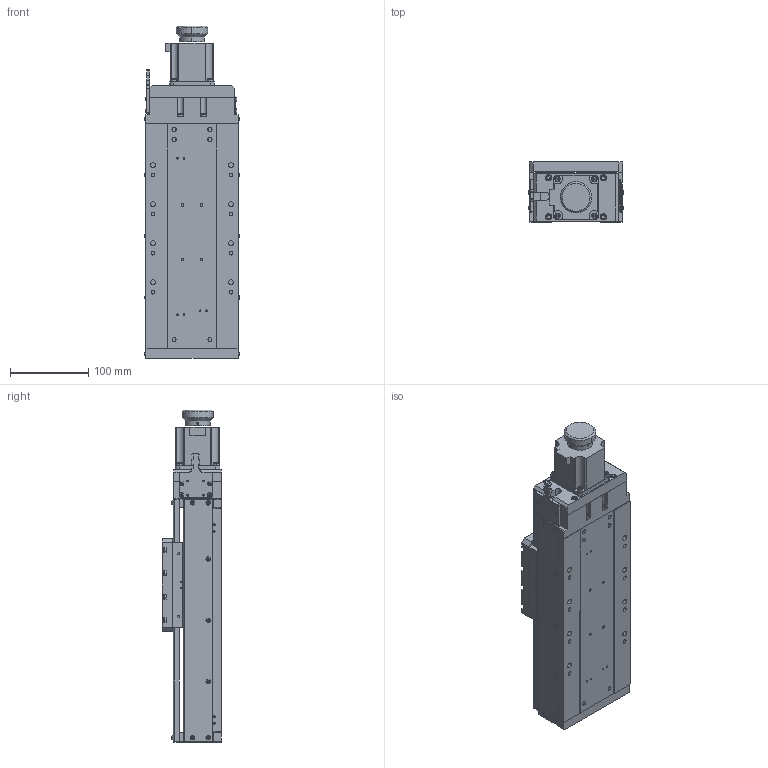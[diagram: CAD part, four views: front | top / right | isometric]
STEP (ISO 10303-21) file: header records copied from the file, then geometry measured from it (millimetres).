
FILE_DESCRIPTION (( 'STEP AP203' ), '1' );
FILE_NAME ('PA100-C.step', '2019-05-06T08:15:15', ( '' ), ( '' ), 'SwSTEP 2.0', 'SolidWorks 2017', '' );
FILE_SCHEMA (( 'CONFIG_CONTROL_DESIGN' ));
Length unit declared in the file: millimetre
Products named in the file (1): PA100-C
Bounding box: 121.3 x 76.5 x 425.5 mm (x, y, z)
Surface area: 282836.8 mm2 (no closed solid volume)
Topology: 0 solids, 83 shells, 1021 faces, 3330 edges, 2346 vertices
Faces by surface type: plane 642, cylinder 259, sphere 52, torus 40, cone 28
Entity records: 36608 total; most frequent: CARTESIAN_POINT 6760, DIRECTION 6399, ORIENTED_EDGE 5326, EDGE_CURVE 3306, VERTEX_POINT 2346, VECTOR 2245, LINE 2245, AXIS2_PLACEMENT_3D 2077
